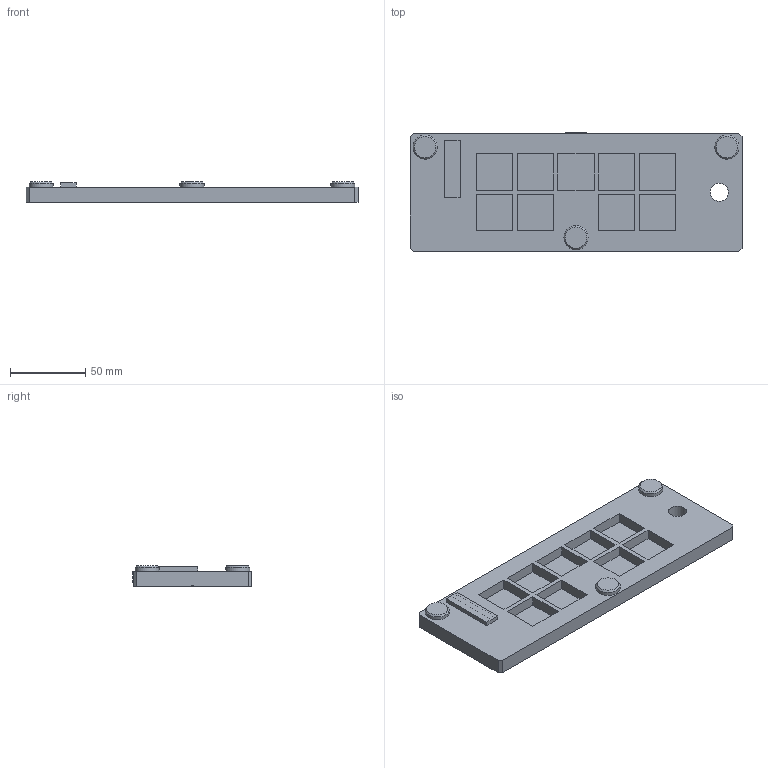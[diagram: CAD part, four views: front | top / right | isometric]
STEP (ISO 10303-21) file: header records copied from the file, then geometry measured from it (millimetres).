
FILE_DESCRIPTION(('Open CASCADE Model'),'2;1');
FILE_NAME('Open CASCADE Shape Model','2026-08-23T08:04:34',('Author'),( 'Open CASCADE'),'Open CASCADE STEP processor 7.9','Open CASCADE 7.9' ,'Unknown');
FILE_SCHEMA(('AUTOMOTIVE_DESIGN { 1 0 10303 214 1 1 1 1 }'));
Length unit declared in the file: millimetre
Products named in the file (2): =>[0:1:1:2]; COMPOUND
Assembly tree (1 placements, depth 2):
  =>[0:1:1:2]
    COMPOUND
Bounding box: 220 x 78.5 x 13.5 mm (x, y, z)
Volume: 129775.3 mm3; surface area: 48736.2 mm2
Topology: 1 solids, 1 shells, 565 faces, 1541 edges, 1026 vertices
Faces by surface type: extrusion 289, plane 266, cone 5, cylinder 5
Full cylindrical faces by diameter (mm): 11.9 x1, 16 x3
Entity records: 38114 total; most frequent: CARTESIAN_POINT 9170, DIRECTION 4288, VECTOR 3681, LINE 3392, ORIENTED_EDGE 3082, PCURVE 3082, DEFINITIONAL_REPRESENTATION 3082, EDGE_CURVE 1541
